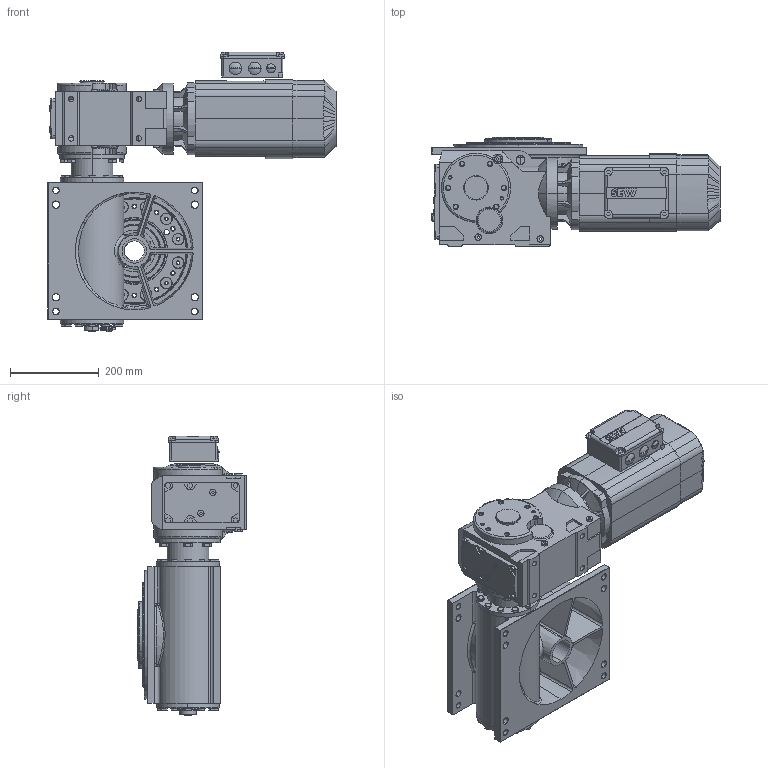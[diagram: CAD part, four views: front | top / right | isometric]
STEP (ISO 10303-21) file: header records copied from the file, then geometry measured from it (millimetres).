
FILE_DESCRIPTION (( 'STEP AP214' ), '1' );
FILE_NAME ('M235_SEW_KA57DRE90L4BE5_D1_12.STEP', '2020-06-17T05:36:41', ( '' ), ( '' ), 'SwSTEP 2.0', 'SolidWorks 2020', '' );
FILE_SCHEMA (( 'AUTOMOTIVE_DESIGN' ));
Length unit declared in the file: millimetre
Products named in the file (1): M235_SEW_KA57DRE90L4BE5_D1_12
Bounding box: 647.5 x 246 x 629 mm (x, y, z)
Surface area: 1357553 mm2 (no closed solid volume)
Topology: 0 solids, 103 shells, 1751 faces, 5284 edges, 3522 vertices
Faces by surface type: plane 682, cylinder 547, cone 320, bspline 135, torus 45, sphere 22
Entity records: 93360 total; most frequent: CARTESIAN_POINT 28072, DIRECTION 9594, ORIENTED_EDGE 8937, EDGE_CURVE 5272, AXIS2_PLACEMENT_3D 3609, VERTEX_POINT 3522, LINE 2376, VECTOR 2376
